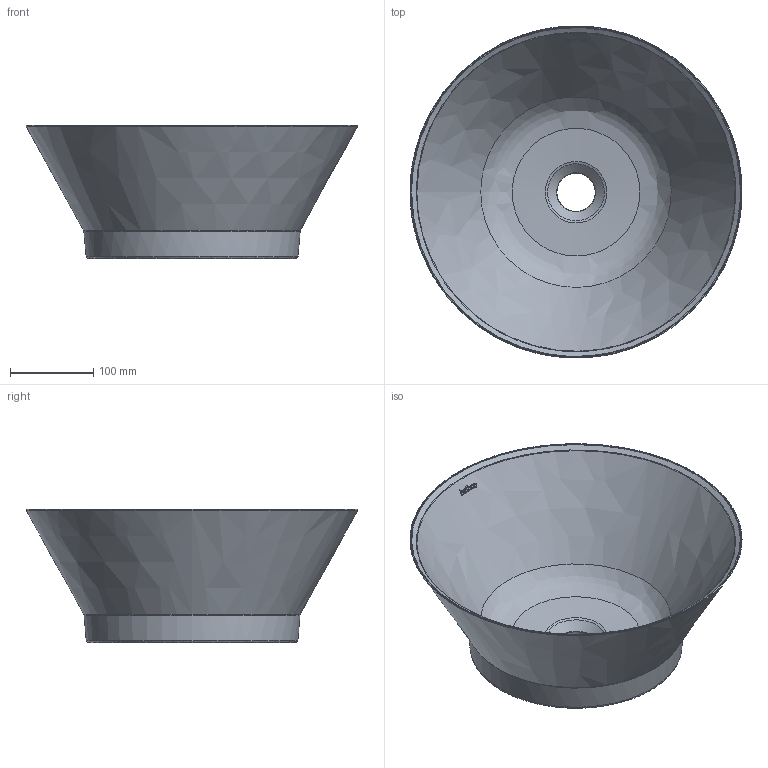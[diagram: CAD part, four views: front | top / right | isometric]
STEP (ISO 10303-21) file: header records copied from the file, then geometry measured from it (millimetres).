
FILE_DESCRIPTION(/* description */ (''),/* implementation_level */ '2;1');
FILE_NAME(/* name */ '4156_E~1',/* time_stamp */ '2022-06-17T16:55:53+02:00',/* author */ (''),/* organization */ (''),/* preprocessor_version */ 'ST-DEVELOPER v16.5',/* originating_system */ '',/* authorisation */ '');
FILE_SCHEMA (('CONFIG_CONTROL_DESIGN'));
Length unit declared in the file: millimetre
Products named in the file (1): Document
Bounding box: 399.26 x 399.19 x 160 mm (x, y, z)
Volume: 2327035.4 mm3; surface area: 430848.8 mm2
Topology: 7 solids, 7 shells, 116 faces, 283 edges, 179 vertices
Faces by surface type: bspline 112, plane 3, cylinder 1
Full cylindrical faces by diameter (mm): 46 x1
Entity records: 6498 total; most frequent: CARTESIAN_POINT 4719, ORIENTED_EDGE 566, EDGE_CURVE 283, B_SPLINE_CURVE_WITH_KNOTS 210, VERTEX_POINT 179, EDGE_LOOP 122, ADVANCED_FACE 116, FACE_OUTER_BOUND 116
